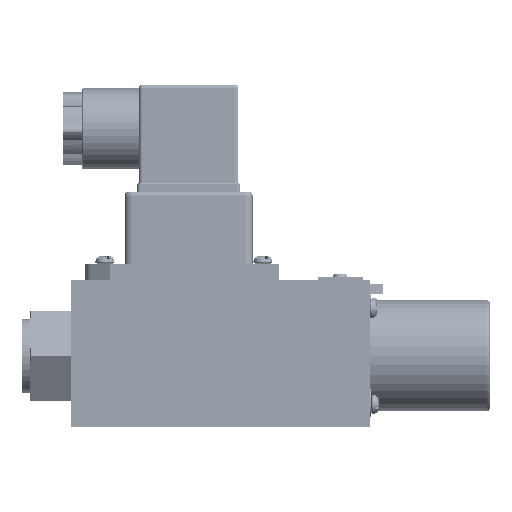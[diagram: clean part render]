
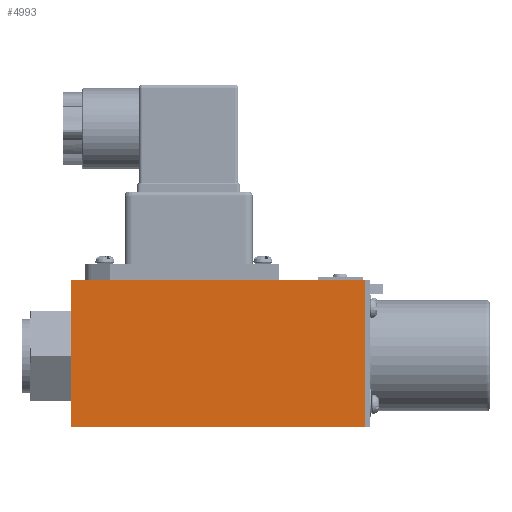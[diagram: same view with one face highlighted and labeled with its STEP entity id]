
A CAD part, front view. The second image highlights one B-rep face of the part: STEP entity #4993.
In plain terms, the highlighted planar face has unit normal (0, -1, 0).
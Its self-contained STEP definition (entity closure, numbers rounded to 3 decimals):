
#1172=LINE('',#47682,#2222);
#1178=LINE('',#47773,#2228);
#1179=LINE('',#47941,#2229);
#1186=LINE('',#47955,#2236);
#2222=VECTOR('',#16699,1.);
#2228=VECTOR('',#16717,1.);
#2229=VECTOR('',#16738,1.);
#2236=VECTOR('',#16747,1.);
#3692=FACE_OUTER_BOUND('',#6252,.T.);
#4241=PLANE('',#14761);
#4993=ADVANCED_FACE('',(#3692),#4241,.F.);
#6252=EDGE_LOOP('',(#8377,#8378,#8379,#8380));
#8377=ORIENTED_EDGE('',*,*,#12745,.T.);
#8378=ORIENTED_EDGE('',*,*,#12760,.F.);
#8379=ORIENTED_EDGE('',*,*,#12785,.F.);
#8380=ORIENTED_EDGE('',*,*,#12778,.T.);
#11196=VERTEX_POINT('',#47683);
#11197=VERTEX_POINT('',#47684);
#11210=VERTEX_POINT('',#47772);
#11228=VERTEX_POINT('',#47942);
#12745=EDGE_CURVE('',#11196,#11197,#1172,.T.);
#12760=EDGE_CURVE('',#11210,#11197,#1178,.T.);
#12778=EDGE_CURVE('',#11228,#11196,#1179,.T.);
#12785=EDGE_CURVE('',#11228,#11210,#1186,.T.);
#14761=AXIS2_PLACEMENT_3D('',#47956,#16748,#16749);
#16699=DIRECTION('',(-1.,0.,0.));
#16717=DIRECTION('',(0.,0.,1.));
#16738=DIRECTION('',(0.,0.,1.));
#16747=DIRECTION('',(-1.,0.,0.));
#16748=DIRECTION('',(0.,1.,0.));
#16749=DIRECTION('',(0.,0.,-1.));
#47682=CARTESIAN_POINT('',(214.295,65.73,0.));
#47683=CARTESIAN_POINT('',(214.295,65.73,0.));
#47684=CARTESIAN_POINT('',(136.295,65.73,0.));
#47772=CARTESIAN_POINT('',(136.295,65.73,-39.));
#47773=CARTESIAN_POINT('',(136.295,65.73,-39.));
#47941=CARTESIAN_POINT('',(214.295,65.73,-39.));
#47942=CARTESIAN_POINT('',(214.295,65.73,-39.));
#47955=CARTESIAN_POINT('',(214.295,65.73,-39.));
#47956=CARTESIAN_POINT('',(214.295,65.73,-39.));
